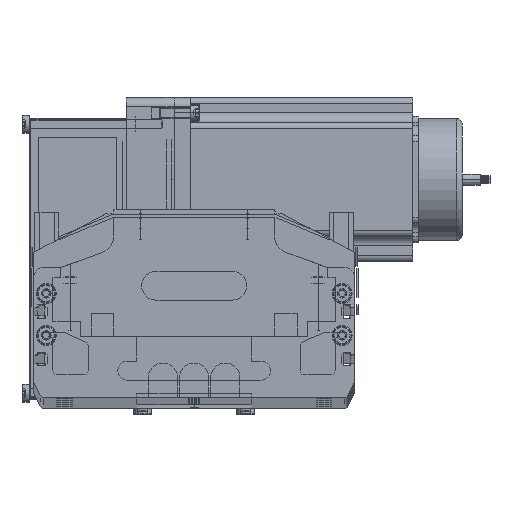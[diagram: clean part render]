
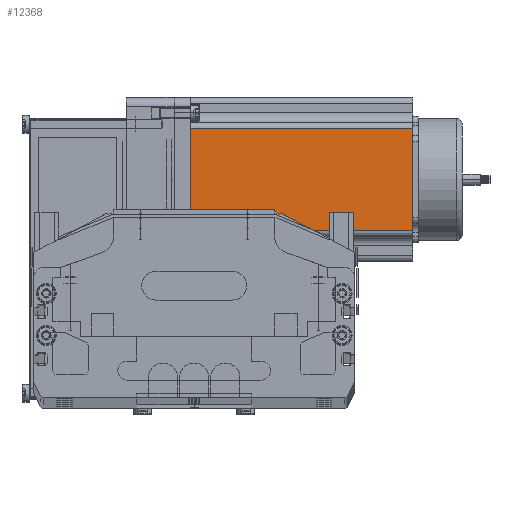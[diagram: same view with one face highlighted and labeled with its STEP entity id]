
A CAD part, top view. The second image highlights one B-rep face of the part: STEP entity #12368.
In plain terms, the highlighted planar face has unit normal (0, 0, 1) as drawn and (0, -1, 0) by its records, which use the part's own axes.
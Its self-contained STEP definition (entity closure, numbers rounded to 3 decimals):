
#1658 = DIRECTION ( 'NONE',  ( 1., 0., 0. ) ) ;
#1659 = VECTOR ( 'NONE', #1658, 1000. ) ;
#1660 = CARTESIAN_POINT ( 'NONE',  ( 0., 0., 0. ) ) ;
#1663 = DIRECTION ( 'NONE',  ( 0., 0., 1. ) ) ;
#1669 = LINE ( 'NONE', #1682, #1680 ) ;
#1672 = LINE ( 'NONE', #1660, #1659 ) ;
#1677 = DIRECTION ( 'NONE',  ( 0., 0., 1. ) ) ;
#1680 = VECTOR ( 'NONE', #1663, 1000. ) ;
#1682 = CARTESIAN_POINT ( 'NONE',  ( 69.74, 0., 116.5 ) ) ;
#1687 = FACE_OUTER_BOUND ( 'NONE', #12298, .T. ) ;
#1691 = PLANE ( 'NONE',  #1694 ) ;
#1694 = AXIS2_PLACEMENT_3D ( 'NONE', #1723, #1722, #1677 ) ;
#1706 = CARTESIAN_POINT ( 'NONE',  ( 69.74, 0., 116.5 ) ) ;
#1721 = CARTESIAN_POINT ( 'NONE',  ( 69.74, 0., 0. ) ) ;
#1722 = DIRECTION ( 'NONE',  ( 0., 1., 0. ) ) ;
#1723 = CARTESIAN_POINT ( 'NONE',  ( 0., 0., 116.5 ) ) ;
#2017 = CARTESIAN_POINT ( 'NONE',  ( 16.16, 0., 0. ) ) ;
#2366 = DIRECTION ( 'NONE',  ( 1., 0., 0. ) ) ;
#2367 = VECTOR ( 'NONE', #2366, 1000. ) ;
#2377 = CARTESIAN_POINT ( 'NONE',  ( 16.16, 0., 116.5 ) ) ;
#2393 = CARTESIAN_POINT ( 'NONE',  ( 0., 0., 116.5 ) ) ;
#2396 = LINE ( 'NONE', #2393, #2367 ) ;
#2432 = DIRECTION ( 'NONE',  ( 0., 0., -1. ) ) ;
#2433 = VECTOR ( 'NONE', #2432, 1000. ) ;
#2435 = CARTESIAN_POINT ( 'NONE',  ( 16.16, 0., 116.5 ) ) ;
#2436 = LINE ( 'NONE', #2435, #2433 ) ;
#12298 = EDGE_LOOP ( 'NONE', ( #12371, #12370, #12418, #12335 ) ) ;
#12305 = VERTEX_POINT ( 'NONE', #2017 ) ;
#12335 = ORIENTED_EDGE ( 'NONE', *, *, #12420, .T. ) ;
#12360 = VERTEX_POINT ( 'NONE', #1721 ) ;
#12364 = VERTEX_POINT ( 'NONE', #1706 ) ;
#12368 = ADVANCED_FACE ( 'NONE', ( #1687 ), #1691, .F. ) ;
#12370 = ORIENTED_EDGE ( 'NONE', *, *, #12372, .T. ) ;
#12371 = ORIENTED_EDGE ( 'NONE', *, *, #12375, .T. ) ;
#12372 = EDGE_CURVE ( 'NONE', #12360, #12364, #1669, .T. ) ;
#12375 = EDGE_CURVE ( 'NONE', #12305, #12360, #1672, .T. ) ;
#12418 = ORIENTED_EDGE ( 'NONE', *, *, #12469, .F. ) ;
#12420 = EDGE_CURVE ( 'NONE', #12467, #12305, #2436, .T. ) ;
#12467 = VERTEX_POINT ( 'NONE', #2377 ) ;
#12469 = EDGE_CURVE ( 'NONE', #12467, #12364, #2396, .T. ) ;
